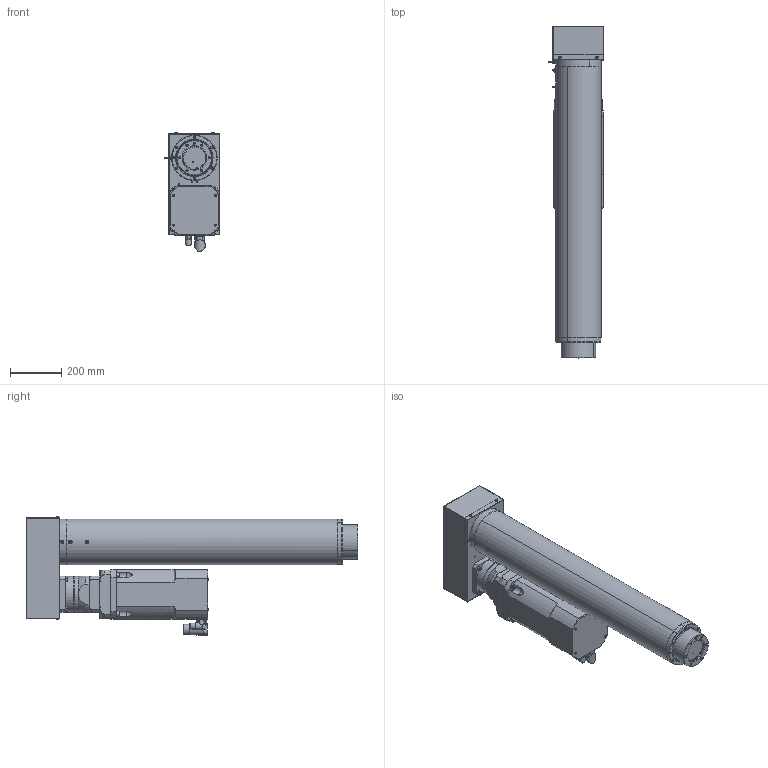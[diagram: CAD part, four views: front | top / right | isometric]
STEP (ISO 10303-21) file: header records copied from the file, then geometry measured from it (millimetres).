
FILE_DESCRIPTION (( 'STEP AP214' ), '1' );
FILE_NAME ('RLWPK100D-075-020H.STEP', '2023-04-06T06:04:34', ( '' ), ( '' ), 'SwSTEP 2.0', 'SolidWorks 2021', '' );
FILE_SCHEMA (( 'AUTOMOTIVE_DESIGN' ));
Length unit declared in the file: millimetre
Products named in the file (1): RLWPK100D-075-020H
Bounding box: 218.14 x 1297.5 x 462.25 mm (x, y, z)
Volume: 37810002.5 mm3; surface area: 3285540.7 mm2
Topology: 30 solids, 30 shells, 1217 faces, 2898 edges, 1742 vertices
Faces by surface type: cylinder 476, plane 431, cone 206, torus 72, bspline 30, sphere 2
Entity records: 50241 total; most frequent: CARTESIAN_POINT 8329, DIRECTION 6236, ORIENTED_EDGE 5524, EDGE_CURVE 2762, AXIS2_PLACEMENT_3D 2441, VERTEX_POINT 1742, EDGE_LOOP 1450, VECTOR 1354
